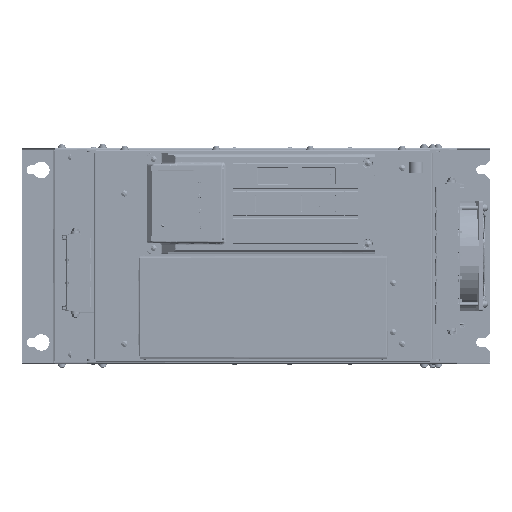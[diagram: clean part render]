
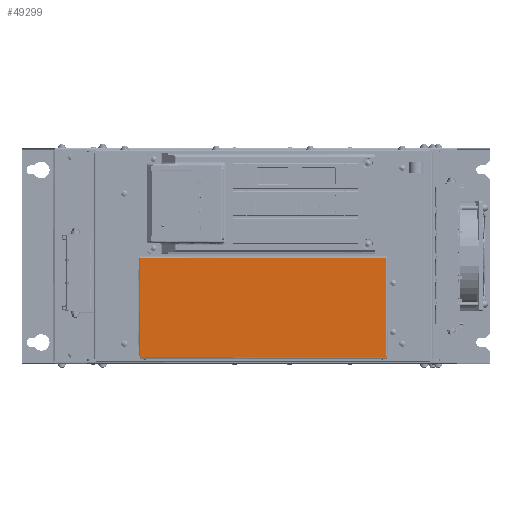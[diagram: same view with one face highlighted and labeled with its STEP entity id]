
A CAD part, top view. The second image highlights one B-rep face of the part: STEP entity #49299.
In plain terms, the highlighted planar face has unit normal (0, 0, 1).
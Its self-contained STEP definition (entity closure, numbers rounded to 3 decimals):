
#4985=PLANE('',#334399);
#49299=ADVANCED_FACE('',(#60896),#4985,.T.);
#60896=FACE_OUTER_BOUND('',#73636,.T.);
#73636=EDGE_LOOP('',(#117669,#117670,#117671,#117672,#117673,#117674,#117675,
#117676,#117677,#117678,#117679,#117680));
#117669=ORIENTED_EDGE('',*,*,#179344,.T.);
#117670=ORIENTED_EDGE('',*,*,#179345,.T.);
#117671=ORIENTED_EDGE('',*,*,#179346,.T.);
#117672=ORIENTED_EDGE('',*,*,#179347,.T.);
#117673=ORIENTED_EDGE('',*,*,#179343,.F.);
#117674=ORIENTED_EDGE('',*,*,#179348,.T.);
#117675=ORIENTED_EDGE('',*,*,#179349,.T.);
#117676=ORIENTED_EDGE('',*,*,#179350,.T.);
#117677=ORIENTED_EDGE('',*,*,#179351,.T.);
#117678=ORIENTED_EDGE('',*,*,#179352,.T.);
#117679=ORIENTED_EDGE('',*,*,#179353,.T.);
#117680=ORIENTED_EDGE('',*,*,#179354,.T.);
#179343=EDGE_CURVE('',#302683,#302684,#247957,.T.);
#179344=EDGE_CURVE('',#302685,#302686,#247958,.T.);
#179345=EDGE_CURVE('',#302686,#302687,#247959,.T.);
#179346=EDGE_CURVE('',#302687,#302688,#247960,.T.);
#179347=EDGE_CURVE('',#302688,#302684,#247961,.T.);
#179348=EDGE_CURVE('',#302683,#302689,#247962,.T.);
#179349=EDGE_CURVE('',#302689,#302690,#247963,.T.);
#179350=EDGE_CURVE('',#302690,#302691,#247964,.T.);
#179351=EDGE_CURVE('',#302691,#302692,#247965,.T.);
#179352=EDGE_CURVE('',#302692,#302693,#247966,.T.);
#179353=EDGE_CURVE('',#302693,#302694,#247967,.T.);
#179354=EDGE_CURVE('',#302694,#302685,#247968,.T.);
#247957=B_SPLINE_CURVE_WITH_KNOTS('',1,(#609523,#609524),.UNSPECIFIED.,
 .F.,.F.,(2,2),(0.,268.8),.UNSPECIFIED.);
#247958=B_SPLINE_CURVE_WITH_KNOTS('',1,(#609525,#609526),.UNSPECIFIED.,
 .F.,.F.,(2,2),(0.,0.5),.UNSPECIFIED.);
#247959=B_SPLINE_CURVE_WITH_KNOTS('',1,(#609527,#609528),.UNSPECIFIED.,
 .F.,.F.,(2,2),(-106.6,0.),.UNSPECIFIED.);
#247960=B_SPLINE_CURVE_WITH_KNOTS('',1,(#609529,#609530),.UNSPECIFIED.,
 .F.,.F.,(2,2),(-0.5,0.),.UNSPECIFIED.);
#247961=B_SPLINE_CURVE_WITH_KNOTS('',1,(#609531,#609532),.UNSPECIFIED.,
 .F.,.F.,(2,2),(0.,0.7),.UNSPECIFIED.);
#247962=B_SPLINE_CURVE_WITH_KNOTS('',1,(#609533,#609534),.UNSPECIFIED.,
 .F.,.F.,(2,2),(0.,0.7),.UNSPECIFIED.);
#247963=B_SPLINE_CURVE_WITH_KNOTS('',1,(#609535,#609536),.UNSPECIFIED.,
 .F.,.F.,(2,2),(0.,0.5),.UNSPECIFIED.);
#247964=B_SPLINE_CURVE_WITH_KNOTS('',1,(#609537,#609538),.UNSPECIFIED.,
 .F.,.F.,(2,2),(-106.6,0.),.UNSPECIFIED.);
#247965=B_SPLINE_CURVE_WITH_KNOTS('',1,(#609539,#609540),.UNSPECIFIED.,
 .F.,.F.,(2,2),(-0.5,0.),.UNSPECIFIED.);
#247966=B_SPLINE_CURVE_WITH_KNOTS('',1,(#609541,#609542),.UNSPECIFIED.,
 .F.,.F.,(2,2),(0.,0.7),.UNSPECIFIED.);
#247967=B_SPLINE_CURVE_WITH_KNOTS('',1,(#609543,#609544),.UNSPECIFIED.,
 .F.,.F.,(2,2),(0.,268.8),.UNSPECIFIED.);
#247968=B_SPLINE_CURVE_WITH_KNOTS('',1,(#609545,#609546),.UNSPECIFIED.,
 .F.,.F.,(2,2),(0.,0.7),.UNSPECIFIED.);
#302683=VERTEX_POINT('',#609511);
#302684=VERTEX_POINT('',#609512);
#302685=VERTEX_POINT('',#609513);
#302686=VERTEX_POINT('',#609514);
#302687=VERTEX_POINT('',#609515);
#302688=VERTEX_POINT('',#609516);
#302689=VERTEX_POINT('',#609517);
#302690=VERTEX_POINT('',#609518);
#302691=VERTEX_POINT('',#609519);
#302692=VERTEX_POINT('',#609520);
#302693=VERTEX_POINT('',#609521);
#302694=VERTEX_POINT('',#609522);
#334399=AXIS2_PLACEMENT_3D('',#609510,#339948,$);
#339948=DIRECTION('',(0.,0.,1.));
#609510=CARTESIAN_POINT('',(161.34,8.56,133.304));
#609511=CARTESIAN_POINT('',(-134.4,-2.3,133.304));
#609512=CARTESIAN_POINT('',(134.4,-2.3,133.304));
#609513=CARTESIAN_POINT('',(134.4,-109.6,133.304));
#609514=CARTESIAN_POINT('',(133.9,-109.6,133.304));
#609515=CARTESIAN_POINT('',(133.9,-3.,133.304));
#609516=CARTESIAN_POINT('',(134.4,-3.,133.304));
#609517=CARTESIAN_POINT('',(-134.4,-3.,133.304));
#609518=CARTESIAN_POINT('',(-133.9,-3.,133.304));
#609519=CARTESIAN_POINT('',(-133.9,-109.6,133.304));
#609520=CARTESIAN_POINT('',(-134.4,-109.6,133.304));
#609521=CARTESIAN_POINT('',(-134.4,-110.3,133.304));
#609522=CARTESIAN_POINT('',(134.4,-110.3,133.304));
#609523=CARTESIAN_POINT('',(-134.4,-2.3,133.304));
#609524=CARTESIAN_POINT('',(134.4,-2.3,133.304));
#609525=CARTESIAN_POINT('',(134.4,-109.6,133.304));
#609526=CARTESIAN_POINT('',(133.9,-109.6,133.304));
#609527=CARTESIAN_POINT('',(133.9,-109.6,133.304));
#609528=CARTESIAN_POINT('',(133.9,-3.,133.304));
#609529=CARTESIAN_POINT('',(133.9,-3.,133.304));
#609530=CARTESIAN_POINT('',(134.4,-3.,133.304));
#609531=CARTESIAN_POINT('',(134.4,-3.,133.304));
#609532=CARTESIAN_POINT('',(134.4,-2.3,133.304));
#609533=CARTESIAN_POINT('',(-134.4,-2.3,133.304));
#609534=CARTESIAN_POINT('',(-134.4,-3.,133.304));
#609535=CARTESIAN_POINT('',(-134.4,-3.,133.304));
#609536=CARTESIAN_POINT('',(-133.9,-3.,133.304));
#609537=CARTESIAN_POINT('',(-133.9,-3.,133.304));
#609538=CARTESIAN_POINT('',(-133.9,-109.6,133.304));
#609539=CARTESIAN_POINT('',(-133.9,-109.6,133.304));
#609540=CARTESIAN_POINT('',(-134.4,-109.6,133.304));
#609541=CARTESIAN_POINT('',(-134.4,-109.6,133.304));
#609542=CARTESIAN_POINT('',(-134.4,-110.3,133.304));
#609543=CARTESIAN_POINT('',(-134.4,-110.3,133.304));
#609544=CARTESIAN_POINT('',(134.4,-110.3,133.304));
#609545=CARTESIAN_POINT('',(134.4,-110.3,133.304));
#609546=CARTESIAN_POINT('',(134.4,-109.6,133.304));
